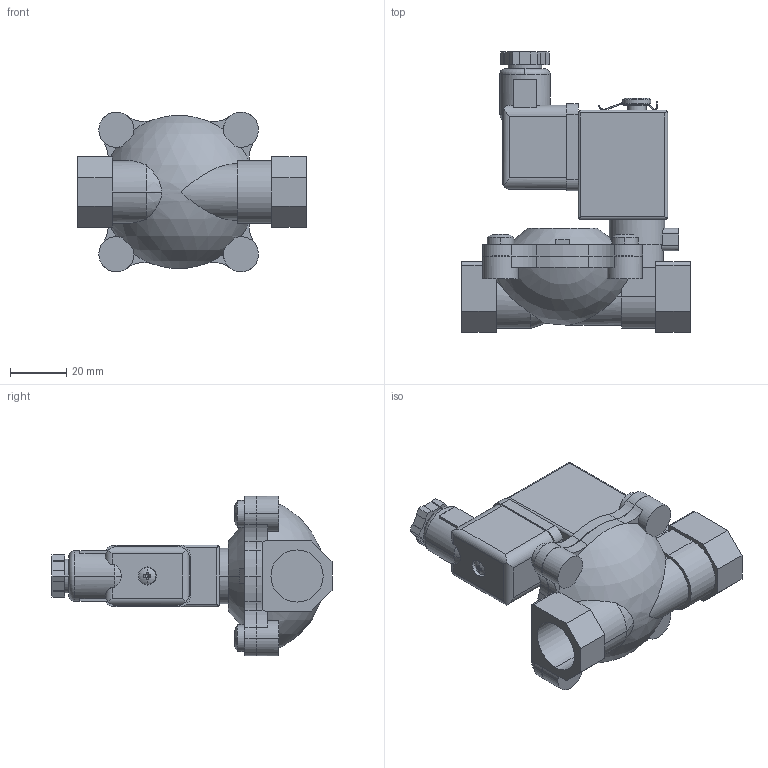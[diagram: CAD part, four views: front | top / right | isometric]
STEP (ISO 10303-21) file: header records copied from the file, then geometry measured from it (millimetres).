
FILE_DESCRIPTION(('STEP AP214'),'1');
FILE_NAME('C:/TPO v2/SharedFS/Outgoing/solenoid_valve_sce238c003.stp','2015-02-25T14:52:13',('TraceParts'),('TraceParts S.A.'),'XStep 1.0',' ',' ');
FILE_SCHEMA(('automotive_design'));
Length unit declared in the file: millimetre
Products named in the file (3): 1; 2; 3
Bounding box: 81.5 x 100 x 57 mm (x, y, z)
Volume: 122593.7 mm3; surface area: 36434.8 mm2
Topology: 3 solids, 3 shells, 593 faces, 1679 edges, 1110 vertices
Faces by surface type: cylinder 273, plane 255, cone 42, torus 12, sphere 11
Entity records: 21888 total; most frequent: CARTESIAN_POINT 6340, ORIENTED_EDGE 3338, DIRECTION 3275, EDGE_CURVE 1669, AXIS2_PLACEMENT_3D 1259, VERTEX_POINT 1110, LINE 757, VECTOR 757
